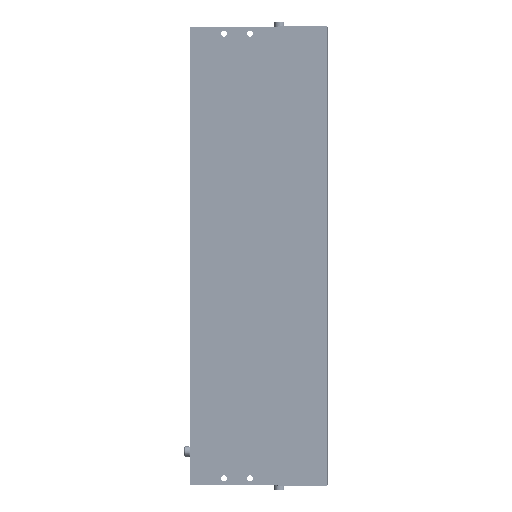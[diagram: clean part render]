
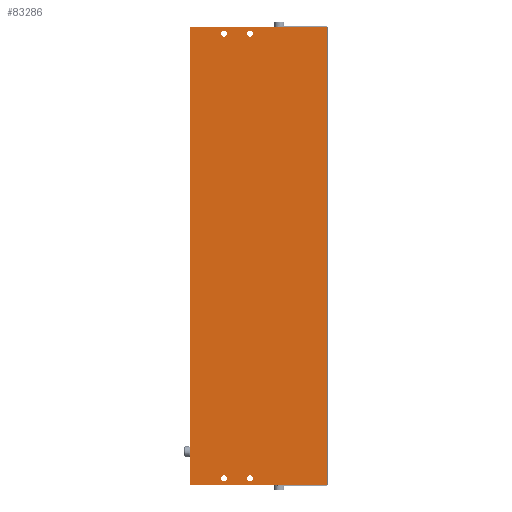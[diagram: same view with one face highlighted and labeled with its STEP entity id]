
A CAD part, front view. The second image highlights one B-rep face of the part: STEP entity #83286.
In plain terms, the highlighted planar face has unit normal (0, -1, 0).
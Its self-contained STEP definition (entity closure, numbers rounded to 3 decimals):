
#48769=DIRECTION('',(1.,0.,0.));
#48770=VECTOR('',#48769,105.);
#48771=CARTESIAN_POINT('',(-52.5,-16.9,352.));
#48772=LINE('',#48771,#48770);
#52517=DIRECTION('',(-1.,0.,0.));
#52518=VECTOR('',#52517,105.);
#52519=CARTESIAN_POINT('',(52.5,-16.9,0.));
#52520=LINE('',#52519,#52518);
#52713=DIRECTION('',(0.,0.,-1.));
#52714=VECTOR('',#52713,352.);
#52715=CARTESIAN_POINT('',(52.5,-16.9,352.));
#52716=LINE('',#52715,#52714);
#52717=CARTESIAN_POINT('',(-26.5,-16.9,347.));
#52718=DIRECTION('',(0.,1.,0.));
#52719=DIRECTION('',(0.,0.,1.));
#52720=AXIS2_PLACEMENT_3D('',#52717,#52718,#52719);
#52722=CARTESIAN_POINT('',(-26.5,-16.9,347.));
#52723=DIRECTION('',(0.,1.,0.));
#52724=DIRECTION('',(0.,0.,-1.));
#52725=AXIS2_PLACEMENT_3D('',#52722,#52723,#52724);
#52727=CARTESIAN_POINT('',(-6.5,-16.9,347.));
#52728=DIRECTION('',(0.,1.,0.));
#52729=DIRECTION('',(0.,0.,1.));
#52730=AXIS2_PLACEMENT_3D('',#52727,#52728,#52729);
#52732=CARTESIAN_POINT('',(-6.5,-16.9,347.));
#52733=DIRECTION('',(0.,1.,0.));
#52734=DIRECTION('',(0.,0.,-1.));
#52735=AXIS2_PLACEMENT_3D('',#52732,#52733,#52734);
#52737=CARTESIAN_POINT('',(-26.5,-16.9,5.));
#52738=DIRECTION('',(0.,1.,0.));
#52739=DIRECTION('',(0.,0.,-1.));
#52740=AXIS2_PLACEMENT_3D('',#52737,#52738,#52739);
#52742=CARTESIAN_POINT('',(-26.5,-16.9,5.));
#52743=DIRECTION('',(0.,1.,0.));
#52744=DIRECTION('',(0.,0.,1.));
#52745=AXIS2_PLACEMENT_3D('',#52742,#52743,#52744);
#52747=CARTESIAN_POINT('',(-6.5,-16.9,5.));
#52748=DIRECTION('',(0.,1.,0.));
#52749=DIRECTION('',(0.,0.,-1.));
#52750=AXIS2_PLACEMENT_3D('',#52747,#52748,#52749);
#52752=CARTESIAN_POINT('',(-6.5,-16.9,5.));
#52753=DIRECTION('',(0.,1.,0.));
#52754=DIRECTION('',(0.,0.,1.));
#52755=AXIS2_PLACEMENT_3D('',#52752,#52753,#52754);
#52761=DIRECTION('',(0.,0.,1.));
#52762=VECTOR('',#52761,352.);
#52763=CARTESIAN_POINT('',(-52.5,-16.9,0.));
#52764=LINE('',#52763,#52762);
#75499=CARTESIAN_POINT('',(-6.5,-16.9,7.25));
#75500=CARTESIAN_POINT('',(-6.5,-16.9,2.75));
#75501=VERTEX_POINT('',#75499);
#75502=VERTEX_POINT('',#75500);
#75790=CARTESIAN_POINT('',(-26.5,-16.9,349.25));
#75791=CARTESIAN_POINT('',(-26.5,-16.9,344.75));
#75792=VERTEX_POINT('',#75790);
#75793=VERTEX_POINT('',#75791);
#76419=CARTESIAN_POINT('',(-26.5,-16.9,2.75));
#76420=CARTESIAN_POINT('',(-26.5,-16.9,7.25));
#76421=VERTEX_POINT('',#76419);
#76422=VERTEX_POINT('',#76420);
#77549=CARTESIAN_POINT('',(-52.5,-16.9,0.));
#77550=CARTESIAN_POINT('',(-52.5,-16.9,352.));
#77551=VERTEX_POINT('',#77549);
#77552=VERTEX_POINT('',#77550);
#77587=CARTESIAN_POINT('',(52.5,-16.9,352.));
#77588=VERTEX_POINT('',#77587);
#78678=CARTESIAN_POINT('',(52.5,-16.9,0.));
#78679=VERTEX_POINT('',#78678);
#78985=CARTESIAN_POINT('',(-6.5,-16.9,349.25));
#78986=VERTEX_POINT('',#78985);
#79031=CARTESIAN_POINT('',(-6.5,-16.9,344.75));
#79032=VERTEX_POINT('',#79031);
#83250=CARTESIAN_POINT('',(-53.,-16.9,0.));
#83251=DIRECTION('',(0.,-1.,0.));
#83252=DIRECTION('',(0.,0.,-1.));
#83253=AXIS2_PLACEMENT_3D('',#83250,#83251,#83252);
#83254=PLANE('',#83253);
#83256=ORIENTED_EDGE('',*,*,#83255,.T.);
#83257=ORIENTED_EDGE('',*,*,#80846,.T.);
#83258=ORIENTED_EDGE('',*,*,#83245,.T.);
#83259=ORIENTED_EDGE('',*,*,#83116,.T.);
#83260=EDGE_LOOP('',(#83256,#83257,#83258,#83259));
#83261=FACE_OUTER_BOUND('',#83260,.F.);
#83263=ORIENTED_EDGE('',*,*,#83262,.F.);
#83265=ORIENTED_EDGE('',*,*,#83264,.F.);
#83266=EDGE_LOOP('',(#83263,#83265));
#83267=FACE_BOUND('',#83266,.F.);
#83269=ORIENTED_EDGE('',*,*,#83268,.F.);
#83271=ORIENTED_EDGE('',*,*,#83270,.F.);
#83272=EDGE_LOOP('',(#83269,#83271));
#83273=FACE_BOUND('',#83272,.F.);
#83275=ORIENTED_EDGE('',*,*,#83274,.F.);
#83277=ORIENTED_EDGE('',*,*,#83276,.F.);
#83278=EDGE_LOOP('',(#83275,#83277));
#83279=FACE_BOUND('',#83278,.F.);
#83281=ORIENTED_EDGE('',*,*,#83280,.F.);
#83283=ORIENTED_EDGE('',*,*,#83282,.F.);
#83284=EDGE_LOOP('',(#83281,#83283));
#83285=FACE_BOUND('',#83284,.F.);
#83286=ADVANCED_FACE('',(#83261,#83267,#83273,#83279,#83285),#83254,.T.);
#52721=CIRCLE('',#52720,2.25);
#52726=CIRCLE('',#52725,2.25);
#52731=CIRCLE('',#52730,2.25);
#52736=CIRCLE('',#52735,2.25);
#52741=CIRCLE('',#52740,2.25);
#52746=CIRCLE('',#52745,2.25);
#52751=CIRCLE('',#52750,2.25);
#52756=CIRCLE('',#52755,2.25);
#80846=EDGE_CURVE('',#77552,#77588,#48772,.T.);
#83116=EDGE_CURVE('',#78679,#77551,#52520,.T.);
#83245=EDGE_CURVE('',#77588,#78679,#52716,.T.);
#83255=EDGE_CURVE('',#77551,#77552,#52764,.T.);
#83262=EDGE_CURVE('',#75792,#75793,#52721,.T.);
#83264=EDGE_CURVE('',#75793,#75792,#52726,.T.);
#83268=EDGE_CURVE('',#78986,#79032,#52731,.T.);
#83270=EDGE_CURVE('',#79032,#78986,#52736,.T.);
#83274=EDGE_CURVE('',#76421,#76422,#52741,.T.);
#83276=EDGE_CURVE('',#76422,#76421,#52746,.T.);
#83280=EDGE_CURVE('',#75502,#75501,#52751,.T.);
#83282=EDGE_CURVE('',#75501,#75502,#52756,.T.);
